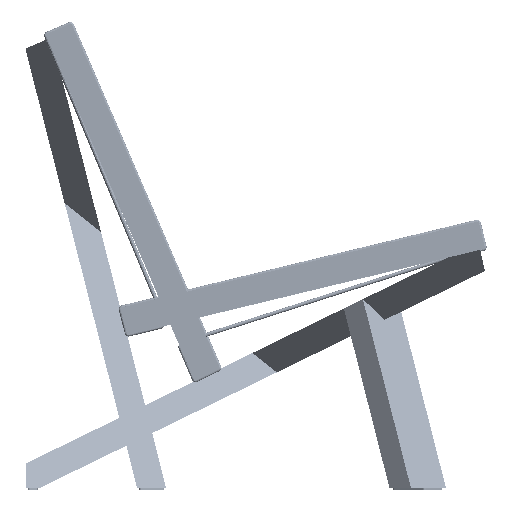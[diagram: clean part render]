
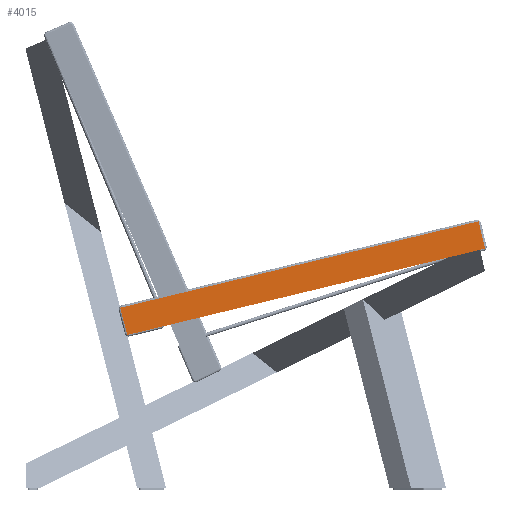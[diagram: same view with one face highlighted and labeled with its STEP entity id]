
A CAD part, left-side view. The second image highlights one B-rep face of the part: STEP entity #4015.
In plain terms, the highlighted planar face has unit normal (-1, 0, 0).
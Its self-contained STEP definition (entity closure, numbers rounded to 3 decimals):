
#4015=ADVANCED_FACE('',(#7498),#41371,.T.);
#7498=FACE_OUTER_BOUND('',#10982,.T.);
#10982=EDGE_LOOP('',(#15250,#15251,#15252,#15253,#15254,#15255,#15256,#15257));
#15250=ORIENTED_EDGE('',*,*,#29838,.F.);
#15251=ORIENTED_EDGE('',*,*,#29813,.F.);
#15252=ORIENTED_EDGE('',*,*,#29828,.F.);
#15253=ORIENTED_EDGE('',*,*,#29920,.F.);
#15254=ORIENTED_EDGE('',*,*,#29839,.F.);
#15255=ORIENTED_EDGE('',*,*,#29814,.F.);
#15256=ORIENTED_EDGE('',*,*,#29833,.F.);
#15257=ORIENTED_EDGE('',*,*,#29917,.F.);
#29813=EDGE_CURVE('',#37557,#37551,#42132,.T.);
#29814=EDGE_CURVE('',#37552,#37556,#42133,.T.);
#29828=EDGE_CURVE('',#37568,#37557,#42147,.T.);
#29833=EDGE_CURVE('',#37566,#37552,#42152,.T.);
#29838=EDGE_CURVE('',#37551,#37567,#42157,.T.);
#29839=EDGE_CURVE('',#37556,#37570,#42158,.T.);
#29917=EDGE_CURVE('',#37567,#37566,#42236,.T.);
#29920=EDGE_CURVE('',#37570,#37568,#42239,.T.);
#37551=VERTEX_POINT('',#53997);
#37552=VERTEX_POINT('',#53998);
#37556=VERTEX_POINT('',#54002);
#37557=VERTEX_POINT('',#54003);
#37566=VERTEX_POINT('',#54012);
#37567=VERTEX_POINT('',#54013);
#37568=VERTEX_POINT('',#54014);
#37570=VERTEX_POINT('',#54016);
#41371=PLANE('',#50598);
#42132=B_SPLINE_CURVE_WITH_KNOTS('',1,(#54241,#54242),.UNSPECIFIED.,.F.,
 .F.,(2,2),(-43.626,0.),.UNSPECIFIED.);
#42133=B_SPLINE_CURVE_WITH_KNOTS('',1,(#54243,#54244),.UNSPECIFIED.,.F.,
 .F.,(2,2),(-43.626,0.),.UNSPECIFIED.);
#42147=B_SPLINE_CURVE_WITH_KNOTS('',1,(#54284,#54285),.UNSPECIFIED.,.F.,
 .F.,(2,2),(0.,61.151),.UNSPECIFIED.);
#42152=B_SPLINE_CURVE_WITH_KNOTS('',1,(#54295,#54296),.UNSPECIFIED.,.F.,
 .F.,(2,2),(0.,451.948),.UNSPECIFIED.);
#42157=B_SPLINE_CURVE_WITH_KNOTS('',1,(#54307,#54308),.UNSPECIFIED.,.F.,
 .F.,(2,2),(104.778,564.092),.UNSPECIFIED.);
#42158=B_SPLINE_CURVE_WITH_KNOTS('',1,(#54309,#54310),.UNSPECIFIED.,.F.,
 .F.,(2,2),(495.574,563.562),.UNSPECIFIED.);
#42236=B_SPLINE_CURVE_WITH_KNOTS('',1,(#54628,#54629),.UNSPECIFIED.,.F.,
 .F.,(2,2),(0.,43.),.UNSPECIFIED.);
#42239=B_SPLINE_CURVE_WITH_KNOTS('',1,(#54634,#54635),.UNSPECIFIED.,.F.,
 .F.,(2,2),(0.,43.003),.UNSPECIFIED.);
#50598=AXIS2_PLACEMENT_3D('',#53962,#51074,$);
#51074=DIRECTION('',(-1.,0.,0.));
#53962=CARTESIAN_POINT('',(23.312,616.654,219.826));
#53997=CARTESIAN_POINT('',(23.312,458.959,303.493));
#53998=CARTESIAN_POINT('',(23.312,441.708,263.422));
#54002=CARTESIAN_POINT('',(23.312,484.116,253.185));
#54003=CARTESIAN_POINT('',(23.312,501.367,293.255));
#54012=CARTESIAN_POINT('',(23.312,2.38,369.477));
#54013=CARTESIAN_POINT('',(23.312,12.47,411.276));
#54014=CARTESIAN_POINT('',(23.312,560.811,278.905));
#54016=CARTESIAN_POINT('',(23.312,550.205,237.23));
#54241=CARTESIAN_POINT('',(23.312,501.367,293.255));
#54242=CARTESIAN_POINT('',(23.312,458.959,303.493));
#54243=CARTESIAN_POINT('',(23.312,441.708,263.422));
#54244=CARTESIAN_POINT('',(23.312,484.116,253.185));
#54284=CARTESIAN_POINT('',(23.312,560.811,278.905));
#54285=CARTESIAN_POINT('',(23.312,501.367,293.255));
#54295=CARTESIAN_POINT('',(23.312,2.38,369.477));
#54296=CARTESIAN_POINT('',(23.312,441.708,263.422));
#54307=CARTESIAN_POINT('',(23.312,458.959,303.493));
#54308=CARTESIAN_POINT('',(23.312,12.47,411.276));
#54309=CARTESIAN_POINT('',(23.312,484.116,253.185));
#54310=CARTESIAN_POINT('',(23.312,550.205,237.23));
#54628=CARTESIAN_POINT('',(23.312,12.47,411.276));
#54629=CARTESIAN_POINT('',(23.312,2.38,369.477));
#54634=CARTESIAN_POINT('',(23.312,550.205,237.23));
#54635=CARTESIAN_POINT('',(23.312,560.811,278.905));
